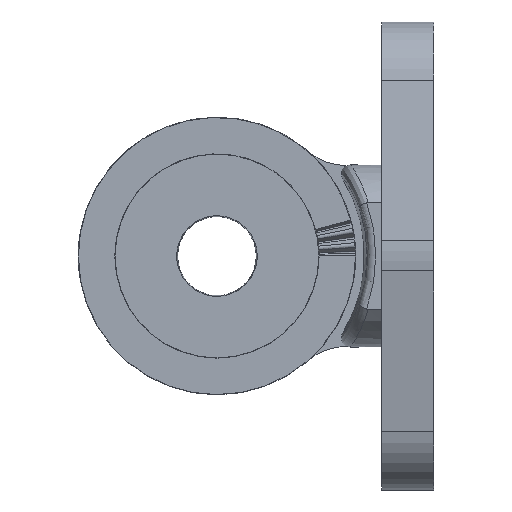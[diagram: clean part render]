
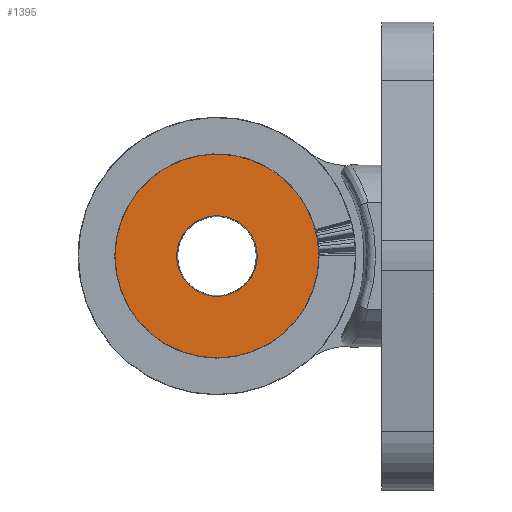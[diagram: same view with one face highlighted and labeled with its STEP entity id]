
A CAD part, top view. The second image highlights one B-rep face of the part: STEP entity #1395.
In plain terms, the highlighted planar face has unit normal (0, 0, 1).
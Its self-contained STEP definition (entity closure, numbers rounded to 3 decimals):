
#9 = FACE_OUTER_BOUND ( 'NONE', #182, .T. ) ;
#66 = CARTESIAN_POINT ( 'NONE',  ( 0., 0., -1. ) ) ;
#82 = CARTESIAN_POINT ( 'NONE',  ( 0., 0., -1. ) ) ;
#182 = EDGE_LOOP ( 'NONE', ( #1445, #245 ) ) ;
#197 = AXIS2_PLACEMENT_3D ( 'NONE', #420, #2137, #2156 ) ;
#245 = ORIENTED_EDGE ( 'NONE', *, *, #1736, .T. ) ;
#275 = CIRCLE ( 'NONE', #791, 11.75 ) ;
#396 = DIRECTION ( 'NONE',  ( 0., 0., 1. ) ) ;
#410 = EDGE_CURVE ( 'NONE', #1219, #1132, #787, .T. ) ;
#420 = CARTESIAN_POINT ( 'NONE',  ( 0., 0., -1. ) ) ;
#431 = AXIS2_PLACEMENT_3D ( 'NONE', #2381, #396, #537 ) ;
#461 = DIRECTION ( 'NONE',  ( 0., 0., 1. ) ) ;
#537 = DIRECTION ( 'NONE',  ( 1., 0., 0. ) ) ;
#715 = EDGE_CURVE ( 'NONE', #1132, #1219, #1500, .T. ) ;
#787 = CIRCLE ( 'NONE', #197, 4.65 ) ;
#791 = AXIS2_PLACEMENT_3D ( 'NONE', #66, #2333, #1758 ) ;
#833 = CIRCLE ( 'NONE', #1347, 11.75 ) ;
#841 = DIRECTION ( 'NONE',  ( 1., 0., 0. ) ) ;
#898 = CARTESIAN_POINT ( 'NONE',  ( -4.65, 0., -1. ) ) ;
#909 = DIRECTION ( 'NONE',  ( 0., 0., -1. ) ) ;
#923 = PLANE ( 'NONE',  #2249 ) ;
#1098 = CARTESIAN_POINT ( 'NONE',  ( 0., 11.75, -1. ) ) ;
#1124 = FACE_BOUND ( 'NONE', #2280, .T. ) ;
#1132 = VERTEX_POINT ( 'NONE', #1342 ) ;
#1202 = ORIENTED_EDGE ( 'NONE', *, *, #715, .F. ) ;
#1219 = VERTEX_POINT ( 'NONE', #898 ) ;
#1277 = DIRECTION ( 'NONE',  ( -1., 0., 0. ) ) ;
#1342 = CARTESIAN_POINT ( 'NONE',  ( 4.65, 0., -1. ) ) ;
#1347 = AXIS2_PLACEMENT_3D ( 'NONE', #82, #461, #841 ) ;
#1395 = ADVANCED_FACE ( 'NONE', ( #1124, #9 ), #923, .F. ) ;
#1445 = ORIENTED_EDGE ( 'NONE', *, *, #1726, .T. ) ;
#1500 = CIRCLE ( 'NONE', #431, 4.65 ) ;
#1705 = CARTESIAN_POINT ( 'NONE',  ( 11.75, 0., -1. ) ) ;
#1726 = EDGE_CURVE ( 'NONE', #2354, #1915, #833, .T. ) ;
#1736 = EDGE_CURVE ( 'NONE', #1915, #2354, #275, .T. ) ;
#1758 = DIRECTION ( 'NONE',  ( 1., 0., 0. ) ) ;
#1801 = CARTESIAN_POINT ( 'NONE',  ( -11.75, 0., -1. ) ) ;
#1915 = VERTEX_POINT ( 'NONE', #1801 ) ;
#2137 = DIRECTION ( 'NONE',  ( 0., 0., 1. ) ) ;
#2156 = DIRECTION ( 'NONE',  ( 1., 0., 0. ) ) ;
#2249 = AXIS2_PLACEMENT_3D ( 'NONE', #1098, #909, #1277 ) ;
#2272 = ORIENTED_EDGE ( 'NONE', *, *, #410, .F. ) ;
#2280 = EDGE_LOOP ( 'NONE', ( #1202, #2272 ) ) ;
#2333 = DIRECTION ( 'NONE',  ( 0., 0., 1. ) ) ;
#2354 = VERTEX_POINT ( 'NONE', #1705 ) ;
#2381 = CARTESIAN_POINT ( 'NONE',  ( 0., 0., -1. ) ) ;
